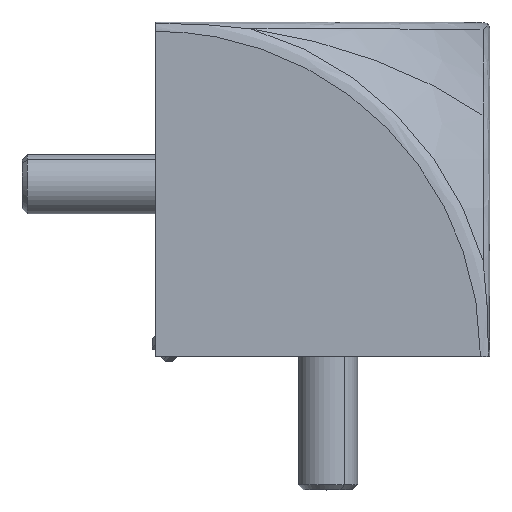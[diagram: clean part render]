
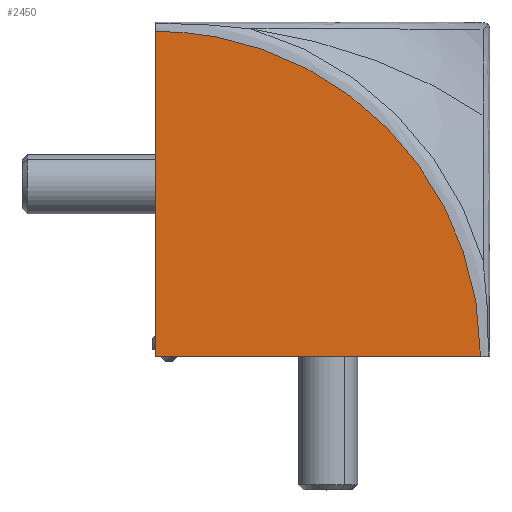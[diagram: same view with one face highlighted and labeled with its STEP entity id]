
A CAD part, top view. The second image highlights one B-rep face of the part: STEP entity #2450.
In plain terms, the highlighted planar face has unit normal (0, 0, 1).
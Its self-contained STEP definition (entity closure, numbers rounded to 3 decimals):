
#193 = VERTEX_POINT ( 'NONE', #2876 ) ;
#476 = EDGE_CURVE ( 'NONE', #2331, #9337, #5528, .T. ) ;
#549 = CARTESIAN_POINT ( 'NONE',  ( 24.357, -10.02, 23.877 ) ) ;
#611 = CARTESIAN_POINT ( 'NONE',  ( 12.694, 8.201, 23.877 ) ) ;
#654 = CARTESIAN_POINT ( 'NONE',  ( 23.726, -8.273, 23.877 ) ) ;
#702 = CARTESIAN_POINT ( 'NONE',  ( 25.857, -15.918, 23.877 ) ) ;
#761 = CARTESIAN_POINT ( 'NONE',  ( 23.518, -7.738, 23.877 ) ) ;
#852 = FACE_OUTER_BOUND ( 'NONE', #7517, .T. ) ;
#948 = ORIENTED_EDGE ( 'NONE', *, *, #476, .T. ) ;
#1407 = CARTESIAN_POINT ( 'NONE',  ( 3.623, 14.738, 23.877 ) ) ;
#1449 = CARTESIAN_POINT ( 'NONE',  ( -17.167, -23.795, 23.877 ) ) ;
#1465 = CARTESIAN_POINT ( 'NONE',  ( 25.945, -16.412, 23.877 ) ) ;
#1520 = CARTESIAN_POINT ( 'NONE',  ( 5.53, 13.624, 23.877 ) ) ;
#1627 = CARTESIAN_POINT ( 'NONE',  ( -0.468, 16.632, 23.877 ) ) ;
#1865 = CARTESIAN_POINT ( 'NONE',  ( -14.492, 19.945, 23.877 ) ) ;
#1966 = PLANE ( 'NONE',  #3469 ) ;
#2226 = ORIENTED_EDGE ( 'NONE', *, *, #10583, .T. ) ;
#2298 = CARTESIAN_POINT ( 'NONE',  ( 7.082, 12.607, 23.877 ) ) ;
#2331 = VERTEX_POINT ( 'NONE', #1449 ) ;
#2351 = CARTESIAN_POINT ( 'NONE',  ( 26.215, -18.143, 23.877 ) ) ;
#2409 = CARTESIAN_POINT ( 'NONE',  ( 19.494, 0.061, 23.877 ) ) ;
#2450 = ADVANCED_FACE ( 'NONE', ( #852 ), #1966, .T. ) ;
#2471 = CARTESIAN_POINT ( 'NONE',  ( -8.904, 19.157, 23.877 ) ) ;
#2518 = CARTESIAN_POINT ( 'NONE',  ( 6.925, 12.711, 23.877 ) ) ;
#2619 = VECTOR ( 'NONE', #8341, 1000. ) ;
#2707 = DIRECTION ( 'NONE',  ( 1., 0., 0. ) ) ;
#2876 = CARTESIAN_POINT ( 'NONE',  ( -17.167, 19.945, 23.877 ) ) ;
#3168 = CARTESIAN_POINT ( 'NONE',  ( 25.846, -15.858, 23.877 ) ) ;
#3220 = CARTESIAN_POINT ( 'NONE',  ( 26.572, -23.795, 23.877 ) ) ;
#3276 = CARTESIAN_POINT ( 'NONE',  ( 19.543, -0.015, 23.877 ) ) ;
#3334 = CARTESIAN_POINT ( 'NONE',  ( 11.019, 9.712, 23.877 ) ) ;
#3399 = CARTESIAN_POINT ( 'NONE',  ( 22.042, -4.311, 23.877 ) ) ;
#3469 = AXIS2_PLACEMENT_3D ( 'NONE', #5356, #9912, #9982 ) ;
#3889 = LINE ( 'NONE', #11190, #2619 ) ;
#4103 = CARTESIAN_POINT ( 'NONE',  ( -9.056, 19.186, 23.877 ) ) ;
#4159 = CARTESIAN_POINT ( 'NONE',  ( 25.85, -15.877, 23.877 ) ) ;
#4215 = CARTESIAN_POINT ( 'NONE',  ( 7.862, 12.079, 23.877 ) ) ;
#4269 = CARTESIAN_POINT ( 'NONE',  ( 25.098, -12.378, 23.877 ) ) ;
#4335 = CARTESIAN_POINT ( 'NONE',  ( -4.393, 18.08, 23.877 ) ) ;
#4972 = CARTESIAN_POINT ( 'NONE',  ( -9.188, 19.211, 23.877 ) ) ;
#5085 = CARTESIAN_POINT ( 'NONE',  ( 23.566, -7.86, 23.877 ) ) ;
#5192 = CARTESIAN_POINT ( 'NONE',  ( -1.026, 16.857, 23.877 ) ) ;
#5356 = CARTESIAN_POINT ( 'NONE',  ( -17.167, -23.795, 23.877 ) ) ;
#5528 = LINE ( 'NONE', #9233, #6601 ) ;
#5840 = CARTESIAN_POINT ( 'NONE',  ( -8.599, 19.098, 23.877 ) ) ;
#5902 = CARTESIAN_POINT ( 'NONE',  ( 26.572, -22.457, 23.877 ) ) ;
#5965 = CARTESIAN_POINT ( 'NONE',  ( 1.308, 15.863, 23.877 ) ) ;
#6019 = CARTESIAN_POINT ( 'NONE',  ( 26.042, -16.988, 23.877 ) ) ;
#6078 = CARTESIAN_POINT ( 'NONE',  ( 0.128, 16.383, 23.877 ) ) ;
#6601 = VECTOR ( 'NONE', #2707, 1000. ) ;
#6745 = CARTESIAN_POINT ( 'NONE',  ( 23.944, -8.853, 23.877 ) ) ;
#6855 = CARTESIAN_POINT ( 'NONE',  ( 15.896, 4.999, 23.877 ) ) ;
#6917 = CARTESIAN_POINT ( 'NONE',  ( 6.845, 12.764, 23.877 ) ) ;
#6965 = CARTESIAN_POINT ( 'NONE',  ( 20.136, -0.95, 23.877 ) ) ;
#7517 = EDGE_LOOP ( 'NONE', ( #10365, #2226, #948 ) ) ;
#7693 = CARTESIAN_POINT ( 'NONE',  ( -11.839, 19.701, 23.877 ) ) ;
#7736 = CARTESIAN_POINT ( 'NONE',  ( 26.572, -23.795, 23.877 ) ) ;
#7746 = CARTESIAN_POINT ( 'NONE',  ( 20.8, -2.056, 23.877 ) ) ;
#7801 = CARTESIAN_POINT ( 'NONE',  ( -6.784, 18.705, 23.877 ) ) ;
#7853 = CARTESIAN_POINT ( 'NONE',  ( 23.534, -7.777, 23.877 ) ) ;
#8341 = DIRECTION ( 'NONE',  ( 0., -1., 0. ) ) ;
#8619 = CARTESIAN_POINT ( 'NONE',  ( 19.643, -0.17, 23.877 ) ) ;
#8669 = CARTESIAN_POINT ( 'NONE',  ( -0.895, 16.805, 23.877 ) ) ;
#8725 = CARTESIAN_POINT ( 'NONE',  ( 25.894, -16.124, 23.877 ) ) ;
#8782 = CARTESIAN_POINT ( 'NONE',  ( -2.386, 17.396, 23.877 ) ) ;
#9070 = B_SPLINE_CURVE_WITH_KNOTS ( 'NONE', 3,
 ( #3220, #5902, #9634, #2351, #6019, #1465, #8725, #11415, #702, #4159, #3168, #9579, #4269, #549, #6745, #654, #9688, #5085, #7853, #761, #11459, #3399, #7746, #6965, #11353, #8619, #3276, #2409, #10603, #6855, #611, #3334, #10358, #4215, #10482, #2298, #2518, #6917, #1520, #1407, #5965, #6078, #1627, #11295, #8669, #10412, #5192, #8782, #4335, #7801, #10553, #5840, #2471, #4103, #11231, #9450, #4972, #7693, #1865, #9931 ),
 .UNSPECIFIED., .F., .F.,
 ( 4, 1, 1, 1, 1, 1, 1, 2, 2, 1, 1, 1, 1, 1, 2, 2, 1, 1, 1, 1, 2, 2, 2, 1, 1, 1, 1, 2, 2, 1, 1, 1, 1, 1, 2, 2, 1, 1, 1, 1, 1, 1, 2, 2, 4 ),
 ( 0., 0.063, 0.094, 0.109, 0.117, 0.121, 0.123, 0.124, 0.125, 0.188, 0.219, 0.234, 0.242, 0.246, 0.248, 0.25, 0.313, 0.344, 0.359, 0.367, 0.371, 0.375, 0.5, 0.563, 0.594, 0.609, 0.617, 0.621, 0.625, 0.688, 0.719, 0.734, 0.742, 0.746, 0.748, 0.75, 0.813, 0.844, 0.859, 0.867, 0.871, 0.873, 0.874, 0.875, 1. ),
 .UNSPECIFIED. ) ;
#9233 = CARTESIAN_POINT ( 'NONE',  ( -17.167, -23.795, 23.877 ) ) ;
#9337 = VERTEX_POINT ( 'NONE', #7736 ) ;
#9450 = CARTESIAN_POINT ( 'NONE',  ( -9.165, 19.206, 23.877 ) ) ;
#9579 = CARTESIAN_POINT ( 'NONE',  ( 25.584, -14.441, 23.877 ) ) ;
#9634 = CARTESIAN_POINT ( 'NONE',  ( 26.481, -20.459, 23.877 ) ) ;
#9688 = CARTESIAN_POINT ( 'NONE',  ( 23.615, -7.984, 23.877 ) ) ;
#9912 = DIRECTION ( 'NONE',  ( 0., 0., 1. ) ) ;
#9931 = CARTESIAN_POINT ( 'NONE',  ( -17.167, 19.945, 23.877 ) ) ;
#9982 = DIRECTION ( 'NONE',  ( 0., -1., 0. ) ) ;
#10358 = CARTESIAN_POINT ( 'NONE',  ( 8.936, 11.316, 23.877 ) ) ;
#10365 = ORIENTED_EDGE ( 'NONE', *, *, #11002, .T. ) ;
#10412 = CARTESIAN_POINT ( 'NONE',  ( -0.981, 16.84, 23.877 ) ) ;
#10482 = CARTESIAN_POINT ( 'NONE',  ( 7.318, 12.45, 23.877 ) ) ;
#10553 = CARTESIAN_POINT ( 'NONE',  ( -7.992, 18.974, 23.877 ) ) ;
#10583 = EDGE_CURVE ( 'NONE', #193, #2331, #3889, .T. ) ;
#10603 = CARTESIAN_POINT ( 'NONE',  ( 17.79, 2.667, 23.877 ) ) ;
#11002 = EDGE_CURVE ( 'NONE', #9337, #193, #9070, .T. ) ;
#11190 = CARTESIAN_POINT ( 'NONE',  ( -17.167, -23.795, 23.877 ) ) ;
#11231 = CARTESIAN_POINT ( 'NONE',  ( -9.121, 19.198, 23.877 ) ) ;
#11295 = CARTESIAN_POINT ( 'NONE',  ( -0.767, 16.754, 23.877 ) ) ;
#11353 = CARTESIAN_POINT ( 'NONE',  ( 19.793, -0.403, 23.877 ) ) ;
#11415 = CARTESIAN_POINT ( 'NONE',  ( 25.868, -15.98, 23.877 ) ) ;
#11459 = CARTESIAN_POINT ( 'NONE',  ( 22.957, -6.321, 23.877 ) ) ;
